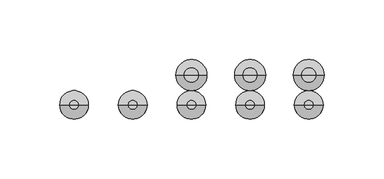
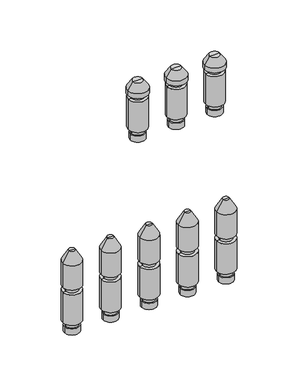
"""IFC4 building model written with IfcOpenShell, lengths in millimetres: valve geometry, PL AT_Manifold_FT-EV : 10 circuits."""

from ifc_helpers import new_model, si_unit, frame, origin, place, context, project, spatial, polyline, circle_curve, source, transform, mapped, element, save
from ifc_brep_helpers import plane_surface, cylinder_surface, revolved_surface, advanced_brep


def valve_bdae45cc(model_context):
    return source(origin(), model_context, "Body", "AdvancedBrep", [
        advanced_brep(
        [(425.3888889, 0.0, -35.11267), (444.3888889, 0.0, -35.11267), (434.8888889, 0.0, -35.11267), (425.3888889, 0.0, -27.0369646), (444.3888889, 0.0, -27.0369646), (426.8888889, 0.0, -27.0369646), (442.8888889, 0.0, -27.0369646), (426.8888889, 0.0, -20.330253), (442.8888889, 0.0, -20.330253), (422.8888889, 0.0, -20.330253), (446.8888889, 0.0, -20.330253), (422.8888889, 0.0, 20.330253), (446.8888889, 0.0, 20.330253), (426.8888889, 0.0, 20.330253), (442.8888889, 0.0, 20.330253), (426.8888889, 0.0, 27.0474786), (442.8888889, 0.0, 27.0474786), (422.8888889, 0.0, 27.0474786), (446.8888889, 0.0, 27.0474786), (422.8888889, 0.0, 59.4084325), (446.8888889, 0.0, 59.4084325), (430.8888889, 0.0, 73.264839), (438.8888889, 0.0, 73.264839), (434.8888889, 0.0, 73.264839)],
        [
            (0, 1, circle_curve(frame((434.8888889, 0.0, -35.11267), z_axis=(0.0, 0.0, -1.0), x_axis=(1.0, 0.0, 0.0)), 9.5)),
            (1, 2),
            (2, 0),
            (1, 0, circle_curve(frame((434.8888889, 0.0, -35.11267), z_axis=(0.0, 0.0, -1.0), x_axis=(1.0, 0.0, 0.0)), 9.5)),
            (3, 4, circle_curve(frame((434.8888889, 0.0, -27.0369646), z_axis=(0.0, 0.0, -1.0), x_axis=(1.0, 0.0, 0.0)), 9.5)),
            (4, 1),
            (0, 3),
            (4, 3, circle_curve(frame((434.8888889, 0.0, -27.0369646), z_axis=(0.0, 0.0, -1.0), x_axis=(1.0, 0.0, 0.0)), 9.5)),
            (5, 6, circle_curve(frame((434.8888889, 0.0, -27.0369646), z_axis=(0.0, 0.0, -1.0), x_axis=(1.0, 0.0, 0.0)), 8.0)),
            (6, 4),
            (3, 5),
            (6, 5, circle_curve(frame((434.8888889, 0.0, -27.0369646), z_axis=(0.0, 0.0, -1.0), x_axis=(1.0, 0.0, 0.0)), 8.0)),
            (7, 8, circle_curve(frame((434.8888889, 0.0, -20.330253), z_axis=(0.0, 0.0, -1.0), x_axis=(1.0, 0.0, 0.0)), 8.0)),
            (8, 6),
            (5, 7),
            (8, 7, circle_curve(frame((434.8888889, 0.0, -20.330253), z_axis=(0.0, 0.0, -1.0), x_axis=(1.0, 0.0, 0.0)), 8.0)),
            (9, 10, circle_curve(frame((434.8888889, 0.0, -20.330253), z_axis=(0.0, 0.0, -1.0), x_axis=(1.0, 0.0, 0.0)), 12.0)),
            (10, 8),
            (7, 9),
            (10, 9, circle_curve(frame((434.8888889, 0.0, -20.330253), z_axis=(0.0, 0.0, -1.0), x_axis=(1.0, 0.0, 0.0)), 12.0)),
            (11, 12, circle_curve(frame((434.8888889, 0.0, 20.330253), z_axis=(0.0, 0.0, -1.0), x_axis=(1.0, 0.0, 0.0)), 12.0)),
            (12, 10),
            (9, 11),
            (12, 11, circle_curve(frame((434.8888889, 0.0, 20.330253), z_axis=(0.0, 0.0, -1.0), x_axis=(1.0, 0.0, 0.0)), 12.0)),
            (13, 14, circle_curve(frame((434.8888889, 0.0, 20.330253), z_axis=(0.0, 0.0, -1.0), x_axis=(1.0, 0.0, 0.0)), 8.0)),
            (14, 12),
            (11, 13),
            (14, 13, circle_curve(frame((434.8888889, 0.0, 20.330253), z_axis=(0.0, 0.0, -1.0), x_axis=(1.0, 0.0, 0.0)), 8.0)),
            (15, 16, circle_curve(frame((434.8888889, 0.0, 27.0474786), z_axis=(0.0, 0.0, -1.0), x_axis=(1.0, 0.0, 0.0)), 8.0)),
            (16, 14),
            (13, 15),
            (16, 15, circle_curve(frame((434.8888889, 0.0, 27.0474786), z_axis=(0.0, 0.0, -1.0), x_axis=(1.0, 0.0, 0.0)), 8.0)),
            (17, 18, circle_curve(frame((434.8888889, 0.0, 27.0474786), z_axis=(0.0, 0.0, -1.0), x_axis=(1.0, 0.0, 0.0)), 12.0)),
            (18, 16),
            (15, 17),
            (18, 17, circle_curve(frame((434.8888889, 0.0, 27.0474786), z_axis=(0.0, 0.0, -1.0), x_axis=(1.0, 0.0, 0.0)), 12.0)),
            (19, 20, circle_curve(frame((434.8888889, 0.0, 59.4084325), z_axis=(0.0, 0.0, -1.0), x_axis=(1.0, 0.0, 0.0)), 12.0)),
            (20, 18),
            (17, 19),
            (20, 19, circle_curve(frame((434.8888889, 0.0, 59.4084325), z_axis=(0.0, 0.0, -1.0), x_axis=(1.0, 0.0, 0.0)), 12.0)),
            (21, 22, circle_curve(frame((434.8888889, 0.0, 73.264839), z_axis=(0.0, 0.0, -1.0), x_axis=(1.0, 0.0, 0.0)), 4.0)),
            (22, 20),
            (19, 21),
            (22, 21, circle_curve(frame((434.8888889, 0.0, 73.264839), z_axis=(0.0, 0.0, -1.0), x_axis=(1.0, 0.0, 0.0)), 4.0)),
            (23, 22),
            (21, 23),
        ],
        [
            plane_surface(frame((434.8888889, 0.0, -35.11267), z_axis=(0.0, 0.0, -1.0), x_axis=(1.0, 0.0, 0.0))),
            cylinder_surface(frame((434.8888889, 0.0, 58.264839), z_axis=(0.0, 0.0, 1.0), x_axis=(1.0, 0.0, 0.0)), 9.5),
            plane_surface(frame((434.8888889, 0.0, -27.0369646), z_axis=(0.0, 0.0, 1.0), x_axis=(1.0, 0.0, 0.0))),
            cylinder_surface(frame((434.8888889, 0.0, 58.264839), z_axis=(0.0, 0.0, 1.0), x_axis=(1.0, 0.0, 0.0)), 8.0),
            plane_surface(frame((434.8888889, 0.0, -20.330253), z_axis=(0.0, 0.0, -1.0), x_axis=(1.0, 0.0, 0.0))),
            cylinder_surface(frame((434.8888889, 0.0, 58.264839), z_axis=(0.0, 0.0, 1.0), x_axis=(1.0, 0.0, 0.0)), 12.0),
            plane_surface(frame((434.8888889, 0.0, 20.330253), z_axis=(0.0, 0.0, 1.0), x_axis=(1.0, 0.0, 0.0))),
            plane_surface(frame((434.8888889, 0.0, 27.0474786), z_axis=(0.0, 0.0, -1.0), x_axis=(1.0, 0.0, 0.0))),
            revolved_surface(polyline([(446.8888889, 0.0, 59.4084325), (438.8888889, 0.0, 73.264839)]), (434.8888889, 0.0, 58.264839), (0.0, 0.0, 1.0)),
            plane_surface(frame((434.8888889, 0.0, 73.264839), z_axis=(0.0, 0.0, 1.0), x_axis=(1.0, 0.0, 0.0))),
        ],
        [
            (0, [[1, 2, 3]]),
            (0, [[4, -3, -2]]),
            (1, [[5, 6, -1, 7]]),
            (1, [[8, -7, -4, -6]]),
            (2, [[9, 10, -5, 11]]),
            (2, [[12, -11, -8, -10]]),
            (3, [[13, 14, -9, 15]]),
            (3, [[16, -15, -12, -14]]),
            (4, [[17, 18, -13, 19]]),
            (4, [[20, -19, -16, -18]]),
            (5, [[21, 22, -17, 23]]),
            (5, [[24, -23, -20, -22]]),
            (6, [[25, 26, -21, 27]]),
            (6, [[28, -27, -24, -26]]),
            (3, [[29, 30, -25, 31]]),
            (3, [[32, -31, -28, -30]]),
            (7, [[33, 34, -29, 35]]),
            (7, [[36, -35, -32, -34]]),
            (5, [[37, 38, -33, 39]]),
            (5, [[40, -39, -36, -38]]),
            (8, [[41, 42, -37, 43]]),
            (8, [[44, -43, -40, -42]]),
            (9, [[45, -41, 46]]),
            (9, [[-46, -44, -45]]),
        ],
    ),
        advanced_brep(
        [(376.2777778, 0.0, -35.11267), (395.2777778, 0.0, -35.11267), (385.7777778, 0.0, -35.11267), (376.2777778, 0.0, -27.0369646), (395.2777778, 0.0, -27.0369646), (377.7777778, 0.0, -27.0369646), (393.7777778, 0.0, -27.0369646), (377.7777778, 0.0, -20.330253), (393.7777778, 0.0, -20.330253), (373.7777778, 0.0, -20.330253), (397.7777778, 0.0, -20.330253), (373.7777778, 0.0, 20.330253), (397.7777778, 0.0, 20.330253), (377.7777778, 0.0, 20.330253), (393.7777778, 0.0, 20.330253), (377.7777778, 0.0, 27.0474786), (393.7777778, 0.0, 27.0474786), (373.7777778, 0.0, 27.0474786), (397.7777778, 0.0, 27.0474786), (373.7777778, 0.0, 59.4084325), (397.7777778, 0.0, 59.4084325), (381.7777778, 0.0, 73.264839), (389.7777778, 0.0, 73.264839), (385.7777778, 0.0, 73.264839)],
        [
            (0, 1, circle_curve(frame((385.7777778, 0.0, -35.11267), z_axis=(0.0, 0.0, -1.0), x_axis=(1.0, 0.0, 0.0)), 9.5)),
            (1, 2),
            (2, 0),
            (1, 0, circle_curve(frame((385.7777778, 0.0, -35.11267), z_axis=(0.0, 0.0, -1.0), x_axis=(1.0, 0.0, 0.0)), 9.5)),
            (3, 4, circle_curve(frame((385.7777778, 0.0, -27.0369646), z_axis=(0.0, 0.0, -1.0), x_axis=(1.0, 0.0, 0.0)), 9.5)),
            (4, 1),
            (0, 3),
            (4, 3, circle_curve(frame((385.7777778, 0.0, -27.0369646), z_axis=(0.0, 0.0, -1.0), x_axis=(1.0, 0.0, 0.0)), 9.5)),
            (5, 6, circle_curve(frame((385.7777778, 0.0, -27.0369646), z_axis=(0.0, 0.0, -1.0), x_axis=(1.0, 0.0, 0.0)), 8.0)),
            (6, 4),
            (3, 5),
            (6, 5, circle_curve(frame((385.7777778, 0.0, -27.0369646), z_axis=(0.0, 0.0, -1.0), x_axis=(1.0, 0.0, 0.0)), 8.0)),
            (7, 8, circle_curve(frame((385.7777778, 0.0, -20.330253), z_axis=(0.0, 0.0, -1.0), x_axis=(1.0, 0.0, 0.0)), 8.0)),
            (8, 6),
            (5, 7),
            (8, 7, circle_curve(frame((385.7777778, 0.0, -20.330253), z_axis=(0.0, 0.0, -1.0), x_axis=(1.0, 0.0, 0.0)), 8.0)),
            (9, 10, circle_curve(frame((385.7777778, 0.0, -20.330253), z_axis=(0.0, 0.0, -1.0), x_axis=(1.0, 0.0, 0.0)), 12.0)),
            (10, 8),
            (7, 9),
            (10, 9, circle_curve(frame((385.7777778, 0.0, -20.330253), z_axis=(0.0, 0.0, -1.0), x_axis=(1.0, 0.0, 0.0)), 12.0)),
            (11, 12, circle_curve(frame((385.7777778, 0.0, 20.330253), z_axis=(0.0, 0.0, -1.0), x_axis=(1.0, 0.0, 0.0)), 12.0)),
            (12, 10),
            (9, 11),
            (12, 11, circle_curve(frame((385.7777778, 0.0, 20.330253), z_axis=(0.0, 0.0, -1.0), x_axis=(1.0, 0.0, 0.0)), 12.0)),
            (13, 14, circle_curve(frame((385.7777778, 0.0, 20.330253), z_axis=(0.0, 0.0, -1.0), x_axis=(1.0, 0.0, 0.0)), 8.0)),
            (14, 12),
            (11, 13),
            (14, 13, circle_curve(frame((385.7777778, 0.0, 20.330253), z_axis=(0.0, 0.0, -1.0), x_axis=(1.0, 0.0, 0.0)), 8.0)),
            (15, 16, circle_curve(frame((385.7777778, 0.0, 27.0474786), z_axis=(0.0, 0.0, -1.0), x_axis=(1.0, 0.0, 0.0)), 8.0)),
            (16, 14),
            (13, 15),
            (16, 15, circle_curve(frame((385.7777778, 0.0, 27.0474786), z_axis=(0.0, 0.0, -1.0), x_axis=(1.0, 0.0, 0.0)), 8.0)),
            (17, 18, circle_curve(frame((385.7777778, 0.0, 27.0474786), z_axis=(0.0, 0.0, -1.0), x_axis=(1.0, 0.0, 0.0)), 12.0)),
            (18, 16),
            (15, 17),
            (18, 17, circle_curve(frame((385.7777778, 0.0, 27.0474786), z_axis=(0.0, 0.0, -1.0), x_axis=(1.0, 0.0, 0.0)), 12.0)),
            (19, 20, circle_curve(frame((385.7777778, 0.0, 59.4084325), z_axis=(0.0, 0.0, -1.0), x_axis=(1.0, 0.0, 0.0)), 12.0)),
            (20, 18),
            (17, 19),
            (20, 19, circle_curve(frame((385.7777778, 0.0, 59.4084325), z_axis=(0.0, 0.0, -1.0), x_axis=(1.0, 0.0, 0.0)), 12.0)),
            (21, 22, circle_curve(frame((385.7777778, 0.0, 73.264839), z_axis=(0.0, 0.0, -1.0), x_axis=(1.0, 0.0, 0.0)), 4.0)),
            (22, 20),
            (19, 21),
            (22, 21, circle_curve(frame((385.7777778, 0.0, 73.264839), z_axis=(0.0, 0.0, -1.0), x_axis=(1.0, 0.0, 0.0)), 4.0)),
            (23, 22),
            (21, 23),
        ],
        [
            plane_surface(frame((385.7777778, 0.0, -35.11267), z_axis=(0.0, 0.0, -1.0), x_axis=(1.0, 0.0, 0.0))),
            cylinder_surface(frame((385.7777778, 0.0, 58.264839), z_axis=(0.0, 0.0, 1.0), x_axis=(1.0, 0.0, 0.0)), 9.5),
            plane_surface(frame((385.7777778, 0.0, -27.0369646), z_axis=(0.0, 0.0, 1.0), x_axis=(1.0, 0.0, 0.0))),
            cylinder_surface(frame((385.7777778, 0.0, 58.264839), z_axis=(0.0, 0.0, 1.0), x_axis=(1.0, 0.0, 0.0)), 8.0),
            plane_surface(frame((385.7777778, 0.0, -20.330253), z_axis=(0.0, 0.0, -1.0), x_axis=(1.0, 0.0, 0.0))),
            cylinder_surface(frame((385.7777778, 0.0, 58.264839), z_axis=(0.0, 0.0, 1.0), x_axis=(1.0, 0.0, 0.0)), 12.0),
            plane_surface(frame((385.7777778, 0.0, 20.330253), z_axis=(0.0, 0.0, 1.0), x_axis=(1.0, 0.0, 0.0))),
            plane_surface(frame((385.7777778, 0.0, 27.0474786), z_axis=(0.0, 0.0, -1.0), x_axis=(1.0, 0.0, 0.0))),
            revolved_surface(polyline([(397.7777778, 0.0, 59.4084325), (389.7777778, 0.0, 73.264839)]), (385.7777778, 0.0, 58.264839), (0.0, 0.0, 1.0)),
            plane_surface(frame((385.7777778, 0.0, 73.264839), z_axis=(0.0, 0.0, 1.0), x_axis=(1.0, 0.0, 0.0))),
        ],
        [
            (0, [[1, 2, 3]]),
            (0, [[4, -3, -2]]),
            (1, [[5, 6, -1, 7]]),
            (1, [[8, -7, -4, -6]]),
            (2, [[9, 10, -5, 11]]),
            (2, [[12, -11, -8, -10]]),
            (3, [[13, 14, -9, 15]]),
            (3, [[16, -15, -12, -14]]),
            (4, [[17, 18, -13, 19]]),
            (4, [[20, -19, -16, -18]]),
            (5, [[21, 22, -17, 23]]),
            (5, [[24, -23, -20, -22]]),
            (6, [[25, 26, -21, 27]]),
            (6, [[28, -27, -24, -26]]),
            (3, [[29, 30, -25, 31]]),
            (3, [[32, -31, -28, -30]]),
            (7, [[33, 34, -29, 35]]),
            (7, [[36, -35, -32, -34]]),
            (5, [[37, 38, -33, 39]]),
            (5, [[40, -39, -36, -38]]),
            (8, [[41, 42, -37, 43]]),
            (8, [[44, -43, -40, -42]]),
            (9, [[45, -41, 46]]),
            (9, [[-46, -44, -45]]),
        ],
    ),
        advanced_brep(
        [(425.3888889, 25.0, 174.88733), (444.3888889, 25.0, 174.88733), (434.8888889, 25.0, 174.88733), (425.3888889, 25.0, 182.9630354), (444.3888889, 25.0, 182.9630354), (426.8888889, 25.0, 182.9630354), (442.8888889, 25.0, 182.9630354), (426.8888889, 25.0, 189.669747), (442.8888889, 25.0, 189.669747), (422.8888889, 25.0, 189.669747), (446.8888889, 25.0, 189.669747), (422.8888889, 25.0, 230.330253), (446.8888889, 25.0, 230.330253), (426.8888889, 25.0, 230.330253), (442.8888889, 25.0, 230.330253), (426.8888889, 25.0, 236.0474786), (442.8888889, 25.0, 236.0474786), (421.8888889, 25.0, 236.0474786), (447.8888889, 25.0, 236.0474786), (421.8888889, 25.0, 242.337955), (447.8888889, 25.0, 242.337955), (428.5440668, 25.0, 251.842534), (441.233711, 25.0, 251.842534), (434.8888889, 25.0, 251.842534)],
        [
            (0, 1, circle_curve(frame((434.8888889, 25.0, 174.88733), z_axis=(0.0, 0.0, -1.0), x_axis=(1.0, 0.0, 0.0)), 9.5)),
            (1, 2),
            (2, 0),
            (1, 0, circle_curve(frame((434.8888889, 25.0, 174.88733), z_axis=(0.0, 0.0, -1.0), x_axis=(1.0, 0.0, 0.0)), 9.5)),
            (3, 4, circle_curve(frame((434.8888889, 25.0, 182.9630354), z_axis=(0.0, 0.0, -1.0), x_axis=(1.0, 0.0, 0.0)), 9.5)),
            (4, 1),
            (0, 3),
            (4, 3, circle_curve(frame((434.8888889, 25.0, 182.9630354), z_axis=(0.0, 0.0, -1.0), x_axis=(1.0, 0.0, 0.0)), 9.5)),
            (5, 6, circle_curve(frame((434.8888889, 25.0, 182.9630354), z_axis=(0.0, 0.0, -1.0), x_axis=(1.0, 0.0, 0.0)), 8.0)),
            (6, 4),
            (3, 5),
            (6, 5, circle_curve(frame((434.8888889, 25.0, 182.9630354), z_axis=(0.0, 0.0, -1.0), x_axis=(1.0, 0.0, 0.0)), 8.0)),
            (7, 8, circle_curve(frame((434.8888889, 25.0, 189.669747), z_axis=(0.0, 0.0, -1.0), x_axis=(1.0, 0.0, 0.0)), 8.0)),
            (8, 6),
            (5, 7),
            (8, 7, circle_curve(frame((434.8888889, 25.0, 189.669747), z_axis=(0.0, 0.0, -1.0), x_axis=(1.0, 0.0, 0.0)), 8.0)),
            (9, 10, circle_curve(frame((434.8888889, 25.0, 189.669747), z_axis=(0.0, 0.0, -1.0), x_axis=(1.0, 0.0, 0.0)), 12.0)),
            (10, 8),
            (7, 9),
            (10, 9, circle_curve(frame((434.8888889, 25.0, 189.669747), z_axis=(0.0, 0.0, -1.0), x_axis=(1.0, 0.0, 0.0)), 12.0)),
            (11, 12, circle_curve(frame((434.8888889, 25.0, 230.330253), z_axis=(0.0, 0.0, -1.0), x_axis=(1.0, 0.0, 0.0)), 12.0)),
            (12, 10),
            (9, 11),
            (12, 11, circle_curve(frame((434.8888889, 25.0, 230.330253), z_axis=(0.0, 0.0, -1.0), x_axis=(1.0, 0.0, 0.0)), 12.0)),
            (13, 14, circle_curve(frame((434.8888889, 25.0, 230.330253), z_axis=(0.0, 0.0, -1.0), x_axis=(1.0, 0.0, 0.0)), 8.0)),
            (14, 12),
            (11, 13),
            (14, 13, circle_curve(frame((434.8888889, 25.0, 230.330253), z_axis=(0.0, 0.0, -1.0), x_axis=(1.0, 0.0, 0.0)), 8.0)),
            (15, 16, circle_curve(frame((434.8888889, 25.0, 236.0474786), z_axis=(0.0, 0.0, -1.0), x_axis=(1.0, 0.0, 0.0)), 8.0)),
            (16, 14),
            (13, 15),
            (16, 15, circle_curve(frame((434.8888889, 25.0, 236.0474786), z_axis=(0.0, 0.0, -1.0), x_axis=(1.0, 0.0, 0.0)), 8.0)),
            (17, 18, circle_curve(frame((434.8888889, 25.0, 236.0474786), z_axis=(0.0, 0.0, -1.0), x_axis=(1.0, 0.0, 0.0)), 13.0)),
            (18, 16),
            (15, 17),
            (18, 17, circle_curve(frame((434.8888889, 25.0, 236.0474786), z_axis=(0.0, 0.0, -1.0), x_axis=(1.0, 0.0, 0.0)), 13.0)),
            (19, 20, circle_curve(frame((434.8888889, 25.0, 242.337955), z_axis=(0.0, 0.0, -1.0), x_axis=(1.0, 0.0, 0.0)), 13.0)),
            (20, 18),
            (17, 19),
            (20, 19, circle_curve(frame((434.8888889, 25.0, 242.337955), z_axis=(0.0, 0.0, -1.0), x_axis=(1.0, 0.0, 0.0)), 13.0)),
            (21, 22, circle_curve(frame((434.8888889, 25.0, 251.842534), z_axis=(0.0, 0.0, -1.0), x_axis=(1.0, 0.0, 0.0)), 6.3448221)),
            (22, 20),
            (19, 21),
            (22, 21, circle_curve(frame((434.8888889, 25.0, 251.842534), z_axis=(0.0, 0.0, -1.0), x_axis=(1.0, 0.0, 0.0)), 6.3448221)),
            (23, 22),
            (21, 23),
        ],
        [
            plane_surface(frame((434.8888889, 25.0, 174.88733), z_axis=(0.0, 0.0, -1.0), x_axis=(1.0, 0.0, 0.0))),
            cylinder_surface(frame((434.8888889, 25.0, 247.7026565), z_axis=(0.0, 0.0, 1.0), x_axis=(1.0, 0.0, 0.0)), 9.5),
            plane_surface(frame((434.8888889, 25.0, 182.9630354), z_axis=(0.0, 0.0, 1.0), x_axis=(1.0, 0.0, 0.0))),
            cylinder_surface(frame((434.8888889, 25.0, 247.7026565), z_axis=(0.0, 0.0, 1.0), x_axis=(1.0, 0.0, 0.0)), 8.0),
            plane_surface(frame((434.8888889, 25.0, 189.669747), z_axis=(0.0, 0.0, -1.0), x_axis=(1.0, 0.0, 0.0))),
            cylinder_surface(frame((434.8888889, 25.0, 247.7026565), z_axis=(0.0, 0.0, 1.0), x_axis=(1.0, 0.0, 0.0)), 12.0),
            plane_surface(frame((434.8888889, 25.0, 230.330253), z_axis=(0.0, 0.0, 1.0), x_axis=(1.0, 0.0, 0.0))),
            plane_surface(frame((434.8888889, 25.0, 236.0474786), z_axis=(0.0, 0.0, -1.0), x_axis=(1.0, 0.0, 0.0))),
            cylinder_surface(frame((434.8888889, 25.0, 247.7026565), z_axis=(0.0, 0.0, 1.0), x_axis=(1.0, 0.0, 0.0)), 13.0),
            revolved_surface(polyline([(447.8888889, 25.0, 242.337955), (441.233711, 25.0, 251.842534)]), (434.8888889, 25.0, 247.7026565), (0.0, 0.0, 1.0)),
            plane_surface(frame((434.8888889, 25.0, 251.842534), z_axis=(0.0, 0.0, 1.0), x_axis=(1.0, 0.0, 0.0))),
        ],
        [
            (0, [[1, 2, 3]]),
            (0, [[4, -3, -2]]),
            (1, [[5, 6, -1, 7]]),
            (1, [[8, -7, -4, -6]]),
            (2, [[9, 10, -5, 11]]),
            (2, [[12, -11, -8, -10]]),
            (3, [[13, 14, -9, 15]]),
            (3, [[16, -15, -12, -14]]),
            (4, [[17, 18, -13, 19]]),
            (4, [[20, -19, -16, -18]]),
            (5, [[21, 22, -17, 23]]),
            (5, [[24, -23, -20, -22]]),
            (6, [[25, 26, -21, 27]]),
            (6, [[28, -27, -24, -26]]),
            (3, [[29, 30, -25, 31]]),
            (3, [[32, -31, -28, -30]]),
            (7, [[33, 34, -29, 35]]),
            (7, [[36, -35, -32, -34]]),
            (8, [[37, 38, -33, 39]]),
            (8, [[40, -39, -36, -38]]),
            (9, [[41, 42, -37, 43]]),
            (9, [[44, -43, -40, -42]]),
            (10, [[45, -41, 46]]),
            (10, [[-46, -44, -45]]),
        ],
    ),
        advanced_brep(
        [(376.2777778, 25.0, 174.88733), (395.2777778, 25.0, 174.88733), (385.7777778, 25.0, 174.88733), (376.2777778, 25.0, 182.9630354), (395.2777778, 25.0, 182.9630354), (377.7777778, 25.0, 182.9630354), (393.7777778, 25.0, 182.9630354), (377.7777778, 25.0, 189.669747), (393.7777778, 25.0, 189.669747), (373.7777778, 25.0, 189.669747), (397.7777778, 25.0, 189.669747), (373.7777778, 25.0, 230.330253), (397.7777778, 25.0, 230.330253), (377.7777778, 25.0, 230.330253), (393.7777778, 25.0, 230.330253), (377.7777778, 25.0, 236.0474786), (393.7777778, 25.0, 236.0474786), (372.7777778, 25.0, 236.0474786), (398.7777778, 25.0, 236.0474786), (372.7777778, 25.0, 242.337955), (398.7777778, 25.0, 242.337955), (379.4329557, 25.0, 251.842534), (392.1225999, 25.0, 251.842534), (385.7777778, 25.0, 251.842534)],
        [
            (0, 1, circle_curve(frame((385.7777778, 25.0, 174.88733), z_axis=(0.0, 0.0, -1.0), x_axis=(1.0, 0.0, 0.0)), 9.5)),
            (1, 2),
            (2, 0),
            (1, 0, circle_curve(frame((385.7777778, 25.0, 174.88733), z_axis=(0.0, 0.0, -1.0), x_axis=(1.0, 0.0, 0.0)), 9.5)),
            (3, 4, circle_curve(frame((385.7777778, 25.0, 182.9630354), z_axis=(0.0, 0.0, -1.0), x_axis=(1.0, 0.0, 0.0)), 9.5)),
            (4, 1),
            (0, 3),
            (4, 3, circle_curve(frame((385.7777778, 25.0, 182.9630354), z_axis=(0.0, 0.0, -1.0), x_axis=(1.0, 0.0, 0.0)), 9.5)),
            (5, 6, circle_curve(frame((385.7777778, 25.0, 182.9630354), z_axis=(0.0, 0.0, -1.0), x_axis=(1.0, 0.0, 0.0)), 8.0)),
            (6, 4),
            (3, 5),
            (6, 5, circle_curve(frame((385.7777778, 25.0, 182.9630354), z_axis=(0.0, 0.0, -1.0), x_axis=(1.0, 0.0, 0.0)), 8.0)),
            (7, 8, circle_curve(frame((385.7777778, 25.0, 189.669747), z_axis=(0.0, 0.0, -1.0), x_axis=(1.0, 0.0, 0.0)), 8.0)),
            (8, 6),
            (5, 7),
            (8, 7, circle_curve(frame((385.7777778, 25.0, 189.669747), z_axis=(0.0, 0.0, -1.0), x_axis=(1.0, 0.0, 0.0)), 8.0)),
            (9, 10, circle_curve(frame((385.7777778, 25.0, 189.669747), z_axis=(0.0, 0.0, -1.0), x_axis=(1.0, 0.0, 0.0)), 12.0)),
            (10, 8),
            (7, 9),
            (10, 9, circle_curve(frame((385.7777778, 25.0, 189.669747), z_axis=(0.0, 0.0, -1.0), x_axis=(1.0, 0.0, 0.0)), 12.0)),
            (11, 12, circle_curve(frame((385.7777778, 25.0, 230.330253), z_axis=(0.0, 0.0, -1.0), x_axis=(1.0, 0.0, 0.0)), 12.0)),
            (12, 10),
            (9, 11),
            (12, 11, circle_curve(frame((385.7777778, 25.0, 230.330253), z_axis=(0.0, 0.0, -1.0), x_axis=(1.0, 0.0, 0.0)), 12.0)),
            (13, 14, circle_curve(frame((385.7777778, 25.0, 230.330253), z_axis=(0.0, 0.0, -1.0), x_axis=(1.0, 0.0, 0.0)), 8.0)),
            (14, 12),
            (11, 13),
            (14, 13, circle_curve(frame((385.7777778, 25.0, 230.330253), z_axis=(0.0, 0.0, -1.0), x_axis=(1.0, 0.0, 0.0)), 8.0)),
            (15, 16, circle_curve(frame((385.7777778, 25.0, 236.0474786), z_axis=(0.0, 0.0, -1.0), x_axis=(1.0, 0.0, 0.0)), 8.0)),
            (16, 14),
            (13, 15),
            (16, 15, circle_curve(frame((385.7777778, 25.0, 236.0474786), z_axis=(0.0, 0.0, -1.0), x_axis=(1.0, 0.0, 0.0)), 8.0)),
            (17, 18, circle_curve(frame((385.7777778, 25.0, 236.0474786), z_axis=(0.0, 0.0, -1.0), x_axis=(1.0, 0.0, 0.0)), 13.0)),
            (18, 16),
            (15, 17),
            (18, 17, circle_curve(frame((385.7777778, 25.0, 236.0474786), z_axis=(0.0, 0.0, -1.0), x_axis=(1.0, 0.0, 0.0)), 13.0)),
            (19, 20, circle_curve(frame((385.7777778, 25.0, 242.337955), z_axis=(0.0, 0.0, -1.0), x_axis=(1.0, 0.0, 0.0)), 13.0)),
            (20, 18),
            (17, 19),
            (20, 19, circle_curve(frame((385.7777778, 25.0, 242.337955), z_axis=(0.0, 0.0, -1.0), x_axis=(1.0, 0.0, 0.0)), 13.0)),
            (21, 22, circle_curve(frame((385.7777778, 25.0, 251.842534), z_axis=(0.0, 0.0, -1.0), x_axis=(1.0, 0.0, 0.0)), 6.3448221)),
            (22, 20),
            (19, 21),
            (22, 21, circle_curve(frame((385.7777778, 25.0, 251.842534), z_axis=(0.0, 0.0, -1.0), x_axis=(1.0, 0.0, 0.0)), 6.3448221)),
            (23, 22),
            (21, 23),
        ],
        [
            plane_surface(frame((385.7777778, 25.0, 174.88733), z_axis=(0.0, 0.0, -1.0), x_axis=(1.0, 0.0, 0.0))),
            cylinder_surface(frame((385.7777778, 25.0, 247.7026565), z_axis=(0.0, 0.0, 1.0), x_axis=(1.0, 0.0, 0.0)), 9.5),
            plane_surface(frame((385.7777778, 25.0, 182.9630354), z_axis=(0.0, 0.0, 1.0), x_axis=(1.0, 0.0, 0.0))),
            cylinder_surface(frame((385.7777778, 25.0, 247.7026565), z_axis=(0.0, 0.0, 1.0), x_axis=(1.0, 0.0, 0.0)), 8.0),
            plane_surface(frame((385.7777778, 25.0, 189.669747), z_axis=(0.0, 0.0, -1.0), x_axis=(1.0, 0.0, 0.0))),
            cylinder_surface(frame((385.7777778, 25.0, 247.7026565), z_axis=(0.0, 0.0, 1.0), x_axis=(1.0, 0.0, 0.0)), 12.0),
            plane_surface(frame((385.7777778, 25.0, 230.330253), z_axis=(0.0, 0.0, 1.0), x_axis=(1.0, 0.0, 0.0))),
            plane_surface(frame((385.7777778, 25.0, 236.0474786), z_axis=(0.0, 0.0, -1.0), x_axis=(1.0, 0.0, 0.0))),
            cylinder_surface(frame((385.7777778, 25.0, 247.7026565), z_axis=(0.0, 0.0, 1.0), x_axis=(1.0, 0.0, 0.0)), 13.0),
            revolved_surface(polyline([(398.7777778, 25.0, 242.337955), (392.1225999, 25.0, 251.842534)]), (385.7777778, 25.0, 247.7026565), (0.0, 0.0, 1.0)),
            plane_surface(frame((385.7777778, 25.0, 251.842534), z_axis=(0.0, 0.0, 1.0), x_axis=(1.0, 0.0, 0.0))),
        ],
        [
            (0, [[1, 2, 3]]),
            (0, [[4, -3, -2]]),
            (1, [[5, 6, -1, 7]]),
            (1, [[8, -7, -4, -6]]),
            (2, [[9, 10, -5, 11]]),
            (2, [[12, -11, -8, -10]]),
            (3, [[13, 14, -9, 15]]),
            (3, [[16, -15, -12, -14]]),
            (4, [[17, 18, -13, 19]]),
            (4, [[20, -19, -16, -18]]),
            (5, [[21, 22, -17, 23]]),
            (5, [[24, -23, -20, -22]]),
            (6, [[25, 26, -21, 27]]),
            (6, [[28, -27, -24, -26]]),
            (3, [[29, 30, -25, 31]]),
            (3, [[32, -31, -28, -30]]),
            (7, [[33, 34, -29, 35]]),
            (7, [[36, -35, -32, -34]]),
            (8, [[37, 38, -33, 39]]),
            (8, [[40, -39, -36, -38]]),
            (9, [[41, 42, -37, 43]]),
            (9, [[44, -43, -40, -42]]),
            (10, [[45, -41, 46]]),
            (10, [[-46, -44, -45]]),
        ],
    ),
        advanced_brep(
        [(327.1666667, 0.0, -35.11267), (346.1666667, 0.0, -35.11267), (336.6666667, 0.0, -35.11267), (327.1666667, 0.0, -27.0369646), (346.1666667, 0.0, -27.0369646), (328.6666667, 0.0, -27.0369646), (344.6666667, 0.0, -27.0369646), (328.6666667, 0.0, -20.330253), (344.6666667, 0.0, -20.330253), (324.6666667, 0.0, -20.330253), (348.6666667, 0.0, -20.330253), (324.6666667, 0.0, 20.330253), (348.6666667, 0.0, 20.330253), (328.6666667, 0.0, 20.330253), (344.6666667, 0.0, 20.330253), (328.6666667, 0.0, 27.0474786), (344.6666667, 0.0, 27.0474786), (324.6666667, 0.0, 27.0474786), (348.6666667, 0.0, 27.0474786), (324.6666667, 0.0, 59.4084325), (348.6666667, 0.0, 59.4084325), (332.6666667, 0.0, 73.264839), (340.6666667, 0.0, 73.264839), (336.6666667, 0.0, 73.264839)],
        [
            (0, 1, circle_curve(frame((336.6666667, 0.0, -35.11267), z_axis=(0.0, 0.0, -1.0), x_axis=(1.0, 0.0, 0.0)), 9.5)),
            (1, 2),
            (2, 0),
            (1, 0, circle_curve(frame((336.6666667, 0.0, -35.11267), z_axis=(0.0, 0.0, -1.0), x_axis=(1.0, 0.0, 0.0)), 9.5)),
            (3, 4, circle_curve(frame((336.6666667, 0.0, -27.0369646), z_axis=(0.0, 0.0, -1.0), x_axis=(1.0, 0.0, 0.0)), 9.5)),
            (4, 1),
            (0, 3),
            (4, 3, circle_curve(frame((336.6666667, 0.0, -27.0369646), z_axis=(0.0, 0.0, -1.0), x_axis=(1.0, 0.0, 0.0)), 9.5)),
            (5, 6, circle_curve(frame((336.6666667, 0.0, -27.0369646), z_axis=(0.0, 0.0, -1.0), x_axis=(1.0, 0.0, 0.0)), 8.0)),
            (6, 4),
            (3, 5),
            (6, 5, circle_curve(frame((336.6666667, 0.0, -27.0369646), z_axis=(0.0, 0.0, -1.0), x_axis=(1.0, 0.0, 0.0)), 8.0)),
            (7, 8, circle_curve(frame((336.6666667, 0.0, -20.330253), z_axis=(0.0, 0.0, -1.0), x_axis=(1.0, 0.0, 0.0)), 8.0)),
            (8, 6),
            (5, 7),
            (8, 7, circle_curve(frame((336.6666667, 0.0, -20.330253), z_axis=(0.0, 0.0, -1.0), x_axis=(1.0, 0.0, 0.0)), 8.0)),
            (9, 10, circle_curve(frame((336.6666667, 0.0, -20.330253), z_axis=(0.0, 0.0, -1.0), x_axis=(1.0, 0.0, 0.0)), 12.0)),
            (10, 8),
            (7, 9),
            (10, 9, circle_curve(frame((336.6666667, 0.0, -20.330253), z_axis=(0.0, 0.0, -1.0), x_axis=(1.0, 0.0, 0.0)), 12.0)),
            (11, 12, circle_curve(frame((336.6666667, 0.0, 20.330253), z_axis=(0.0, 0.0, -1.0), x_axis=(1.0, 0.0, 0.0)), 12.0)),
            (12, 10),
            (9, 11),
            (12, 11, circle_curve(frame((336.6666667, 0.0, 20.330253), z_axis=(0.0, 0.0, -1.0), x_axis=(1.0, 0.0, 0.0)), 12.0)),
            (13, 14, circle_curve(frame((336.6666667, 0.0, 20.330253), z_axis=(0.0, 0.0, -1.0), x_axis=(1.0, 0.0, 0.0)), 8.0)),
            (14, 12),
            (11, 13),
            (14, 13, circle_curve(frame((336.6666667, 0.0, 20.330253), z_axis=(0.0, 0.0, -1.0), x_axis=(1.0, 0.0, 0.0)), 8.0)),
            (15, 16, circle_curve(frame((336.6666667, 0.0, 27.0474786), z_axis=(0.0, 0.0, -1.0), x_axis=(1.0, 0.0, 0.0)), 8.0)),
            (16, 14),
            (13, 15),
            (16, 15, circle_curve(frame((336.6666667, 0.0, 27.0474786), z_axis=(0.0, 0.0, -1.0), x_axis=(1.0, 0.0, 0.0)), 8.0)),
            (17, 18, circle_curve(frame((336.6666667, 0.0, 27.0474786), z_axis=(0.0, 0.0, -1.0), x_axis=(1.0, 0.0, 0.0)), 12.0)),
            (18, 16),
            (15, 17),
            (18, 17, circle_curve(frame((336.6666667, 0.0, 27.0474786), z_axis=(0.0, 0.0, -1.0), x_axis=(1.0, 0.0, 0.0)), 12.0)),
            (19, 20, circle_curve(frame((336.6666667, 0.0, 59.4084325), z_axis=(0.0, 0.0, -1.0), x_axis=(1.0, 0.0, 0.0)), 12.0)),
            (20, 18),
            (17, 19),
            (20, 19, circle_curve(frame((336.6666667, 0.0, 59.4084325), z_axis=(0.0, 0.0, -1.0), x_axis=(1.0, 0.0, 0.0)), 12.0)),
            (21, 22, circle_curve(frame((336.6666667, 0.0, 73.264839), z_axis=(0.0, 0.0, -1.0), x_axis=(1.0, 0.0, 0.0)), 4.0)),
            (22, 20),
            (19, 21),
            (22, 21, circle_curve(frame((336.6666667, 0.0, 73.264839), z_axis=(0.0, 0.0, -1.0), x_axis=(1.0, 0.0, 0.0)), 4.0)),
            (23, 22),
            (21, 23),
        ],
        [
            plane_surface(frame((336.6666667, 0.0, -35.11267), z_axis=(0.0, 0.0, -1.0), x_axis=(1.0, 0.0, 0.0))),
            cylinder_surface(frame((336.6666667, 0.0, 58.264839), z_axis=(0.0, 0.0, 1.0), x_axis=(1.0, 0.0, 0.0)), 9.5),
            plane_surface(frame((336.6666667, 0.0, -27.0369646), z_axis=(0.0, 0.0, 1.0), x_axis=(1.0, 0.0, 0.0))),
            cylinder_surface(frame((336.6666667, 0.0, 58.264839), z_axis=(0.0, 0.0, 1.0), x_axis=(1.0, 0.0, 0.0)), 8.0),
            plane_surface(frame((336.6666667, 0.0, -20.330253), z_axis=(0.0, 0.0, -1.0), x_axis=(1.0, 0.0, 0.0))),
            cylinder_surface(frame((336.6666667, 0.0, 58.264839), z_axis=(0.0, 0.0, 1.0), x_axis=(1.0, 0.0, 0.0)), 12.0),
            plane_surface(frame((336.6666667, 0.0, 20.330253), z_axis=(0.0, 0.0, 1.0), x_axis=(1.0, 0.0, 0.0))),
            plane_surface(frame((336.6666667, 0.0, 27.0474786), z_axis=(0.0, 0.0, -1.0), x_axis=(1.0, 0.0, 0.0))),
            revolved_surface(polyline([(348.6666667, 0.0, 59.4084325), (340.6666667, 0.0, 73.264839)]), (336.6666667, 0.0, 58.264839), (0.0, 0.0, 1.0)),
            plane_surface(frame((336.6666667, 0.0, 73.264839), z_axis=(0.0, 0.0, 1.0), x_axis=(1.0, 0.0, 0.0))),
        ],
        [
            (0, [[1, 2, 3]]),
            (0, [[4, -3, -2]]),
            (1, [[5, 6, -1, 7]]),
            (1, [[8, -7, -4, -6]]),
            (2, [[9, 10, -5, 11]]),
            (2, [[12, -11, -8, -10]]),
            (3, [[13, 14, -9, 15]]),
            (3, [[16, -15, -12, -14]]),
            (4, [[17, 18, -13, 19]]),
            (4, [[20, -19, -16, -18]]),
            (5, [[21, 22, -17, 23]]),
            (5, [[24, -23, -20, -22]]),
            (6, [[25, 26, -21, 27]]),
            (6, [[28, -27, -24, -26]]),
            (3, [[29, 30, -25, 31]]),
            (3, [[32, -31, -28, -30]]),
            (7, [[33, 34, -29, 35]]),
            (7, [[36, -35, -32, -34]]),
            (5, [[37, 38, -33, 39]]),
            (5, [[40, -39, -36, -38]]),
            (8, [[41, 42, -37, 43]]),
            (8, [[44, -43, -40, -42]]),
            (9, [[45, -41, 46]]),
            (9, [[-46, -44, -45]]),
        ],
    ),
        advanced_brep(
        [(327.1666667, 25.0, 174.88733), (346.1666667, 25.0, 174.88733), (336.6666667, 25.0, 174.88733), (327.1666667, 25.0, 182.9630354), (346.1666667, 25.0, 182.9630354), (328.6666667, 25.0, 182.9630354), (344.6666667, 25.0, 182.9630354), (328.6666667, 25.0, 189.669747), (344.6666667, 25.0, 189.669747), (324.6666667, 25.0, 189.669747), (348.6666667, 25.0, 189.669747), (324.6666667, 25.0, 230.330253), (348.6666667, 25.0, 230.330253), (328.6666667, 25.0, 230.330253), (344.6666667, 25.0, 230.330253), (328.6666667, 25.0, 236.0474786), (344.6666667, 25.0, 236.0474786), (323.6666667, 25.0, 236.0474786), (349.6666667, 25.0, 236.0474786), (323.6666667, 25.0, 242.337955), (349.6666667, 25.0, 242.337955), (330.3218445, 25.0, 251.842534), (343.0114888, 25.0, 251.842534), (336.6666667, 25.0, 251.842534)],
        [
            (0, 1, circle_curve(frame((336.6666667, 25.0, 174.88733), z_axis=(0.0, 0.0, -1.0), x_axis=(1.0, 0.0, 0.0)), 9.5)),
            (1, 2),
            (2, 0),
            (1, 0, circle_curve(frame((336.6666667, 25.0, 174.88733), z_axis=(0.0, 0.0, -1.0), x_axis=(1.0, 0.0, 0.0)), 9.5)),
            (3, 4, circle_curve(frame((336.6666667, 25.0, 182.9630354), z_axis=(0.0, 0.0, -1.0), x_axis=(1.0, 0.0, 0.0)), 9.5)),
            (4, 1),
            (0, 3),
            (4, 3, circle_curve(frame((336.6666667, 25.0, 182.9630354), z_axis=(0.0, 0.0, -1.0), x_axis=(1.0, 0.0, 0.0)), 9.5)),
            (5, 6, circle_curve(frame((336.6666667, 25.0, 182.9630354), z_axis=(0.0, 0.0, -1.0), x_axis=(1.0, 0.0, 0.0)), 8.0)),
            (6, 4),
            (3, 5),
            (6, 5, circle_curve(frame((336.6666667, 25.0, 182.9630354), z_axis=(0.0, 0.0, -1.0), x_axis=(1.0, 0.0, 0.0)), 8.0)),
            (7, 8, circle_curve(frame((336.6666667, 25.0, 189.669747), z_axis=(0.0, 0.0, -1.0), x_axis=(1.0, 0.0, 0.0)), 8.0)),
            (8, 6),
            (5, 7),
            (8, 7, circle_curve(frame((336.6666667, 25.0, 189.669747), z_axis=(0.0, 0.0, -1.0), x_axis=(1.0, 0.0, 0.0)), 8.0)),
            (9, 10, circle_curve(frame((336.6666667, 25.0, 189.669747), z_axis=(0.0, 0.0, -1.0), x_axis=(1.0, 0.0, 0.0)), 12.0)),
            (10, 8),
            (7, 9),
            (10, 9, circle_curve(frame((336.6666667, 25.0, 189.669747), z_axis=(0.0, 0.0, -1.0), x_axis=(1.0, 0.0, 0.0)), 12.0)),
            (11, 12, circle_curve(frame((336.6666667, 25.0, 230.330253), z_axis=(0.0, 0.0, -1.0), x_axis=(1.0, 0.0, 0.0)), 12.0)),
            (12, 10),
            (9, 11),
            (12, 11, circle_curve(frame((336.6666667, 25.0, 230.330253), z_axis=(0.0, 0.0, -1.0), x_axis=(1.0, 0.0, 0.0)), 12.0)),
            (13, 14, circle_curve(frame((336.6666667, 25.0, 230.330253), z_axis=(0.0, 0.0, -1.0), x_axis=(1.0, 0.0, 0.0)), 8.0)),
            (14, 12),
            (11, 13),
            (14, 13, circle_curve(frame((336.6666667, 25.0, 230.330253), z_axis=(0.0, 0.0, -1.0), x_axis=(1.0, 0.0, 0.0)), 8.0)),
            (15, 16, circle_curve(frame((336.6666667, 25.0, 236.0474786), z_axis=(0.0, 0.0, -1.0), x_axis=(1.0, 0.0, 0.0)), 8.0)),
            (16, 14),
            (13, 15),
            (16, 15, circle_curve(frame((336.6666667, 25.0, 236.0474786), z_axis=(0.0, 0.0, -1.0), x_axis=(1.0, 0.0, 0.0)), 8.0)),
            (17, 18, circle_curve(frame((336.6666667, 25.0, 236.0474786), z_axis=(0.0, 0.0, -1.0), x_axis=(1.0, 0.0, 0.0)), 13.0)),
            (18, 16),
            (15, 17),
            (18, 17, circle_curve(frame((336.6666667, 25.0, 236.0474786), z_axis=(0.0, 0.0, -1.0), x_axis=(1.0, 0.0, 0.0)), 13.0)),
            (19, 20, circle_curve(frame((336.6666667, 25.0, 242.337955), z_axis=(0.0, 0.0, -1.0), x_axis=(1.0, 0.0, 0.0)), 13.0)),
            (20, 18),
            (17, 19),
            (20, 19, circle_curve(frame((336.6666667, 25.0, 242.337955), z_axis=(0.0, 0.0, -1.0), x_axis=(1.0, 0.0, 0.0)), 13.0)),
            (21, 22, circle_curve(frame((336.6666667, 25.0, 251.842534), z_axis=(0.0, 0.0, -1.0), x_axis=(1.0, 0.0, 0.0)), 6.3448221)),
            (22, 20),
            (19, 21),
            (22, 21, circle_curve(frame((336.6666667, 25.0, 251.842534), z_axis=(0.0, 0.0, -1.0), x_axis=(1.0, 0.0, 0.0)), 6.3448221)),
            (23, 22),
            (21, 23),
        ],
        [
            plane_surface(frame((336.6666667, 25.0, 174.88733), z_axis=(0.0, 0.0, -1.0), x_axis=(1.0, 0.0, 0.0))),
            cylinder_surface(frame((336.6666667, 25.0, 247.7026565), z_axis=(0.0, 0.0, 1.0), x_axis=(1.0, 0.0, 0.0)), 9.5),
            plane_surface(frame((336.6666667, 25.0, 182.9630354), z_axis=(0.0, 0.0, 1.0), x_axis=(1.0, 0.0, 0.0))),
            cylinder_surface(frame((336.6666667, 25.0, 247.7026565), z_axis=(0.0, 0.0, 1.0), x_axis=(1.0, 0.0, 0.0)), 8.0),
            plane_surface(frame((336.6666667, 25.0, 189.669747), z_axis=(0.0, 0.0, -1.0), x_axis=(1.0, 0.0, 0.0))),
            cylinder_surface(frame((336.6666667, 25.0, 247.7026565), z_axis=(0.0, 0.0, 1.0), x_axis=(1.0, 0.0, 0.0)), 12.0),
            plane_surface(frame((336.6666667, 25.0, 230.330253), z_axis=(0.0, 0.0, 1.0), x_axis=(1.0, 0.0, 0.0))),
            plane_surface(frame((336.6666667, 25.0, 236.0474786), z_axis=(0.0, 0.0, -1.0), x_axis=(1.0, 0.0, 0.0))),
            cylinder_surface(frame((336.6666667, 25.0, 247.7026565), z_axis=(0.0, 0.0, 1.0), x_axis=(1.0, 0.0, 0.0)), 13.0),
            revolved_surface(polyline([(349.6666667, 25.0, 242.337955), (343.0114888, 25.0, 251.842534)]), (336.6666667, 25.0, 247.7026565), (0.0, 0.0, 1.0)),
            plane_surface(frame((336.6666667, 25.0, 251.842534), z_axis=(0.0, 0.0, 1.0), x_axis=(1.0, 0.0, 0.0))),
        ],
        [
            (0, [[1, 2, 3]]),
            (0, [[4, -3, -2]]),
            (1, [[5, 6, -1, 7]]),
            (1, [[8, -7, -4, -6]]),
            (2, [[9, 10, -5, 11]]),
            (2, [[12, -11, -8, -10]]),
            (3, [[13, 14, -9, 15]]),
            (3, [[16, -15, -12, -14]]),
            (4, [[17, 18, -13, 19]]),
            (4, [[20, -19, -16, -18]]),
            (5, [[21, 22, -17, 23]]),
            (5, [[24, -23, -20, -22]]),
            (6, [[25, 26, -21, 27]]),
            (6, [[28, -27, -24, -26]]),
            (3, [[29, 30, -25, 31]]),
            (3, [[32, -31, -28, -30]]),
            (7, [[33, 34, -29, 35]]),
            (7, [[36, -35, -32, -34]]),
            (8, [[37, 38, -33, 39]]),
            (8, [[40, -39, -36, -38]]),
            (9, [[41, 42, -37, 43]]),
            (9, [[44, -43, -40, -42]]),
            (10, [[45, -41, 46]]),
            (10, [[-46, -44, -45]]),
        ],
    ),
        advanced_brep(
        [(278.0555556, 0.0, -35.11267), (297.0555556, 0.0, -35.11267), (287.5555556, 0.0, -35.11267), (278.0555556, 0.0, -27.0369646), (297.0555556, 0.0, -27.0369646), (279.5555556, 0.0, -27.0369646), (295.5555556, 0.0, -27.0369646), (279.5555556, 0.0, -20.330253), (295.5555556, 0.0, -20.330253), (275.5555556, 0.0, -20.330253), (299.5555556, 0.0, -20.330253), (275.5555556, 0.0, 20.330253), (299.5555556, 0.0, 20.330253), (279.5555556, 0.0, 20.330253), (295.5555556, 0.0, 20.330253), (279.5555556, 0.0, 27.0474786), (295.5555556, 0.0, 27.0474786), (275.5555556, 0.0, 27.0474786), (299.5555556, 0.0, 27.0474786), (275.5555556, 0.0, 59.4084325), (299.5555556, 0.0, 59.4084325), (283.5555556, 0.0, 73.264839), (291.5555556, 0.0, 73.264839), (287.5555556, 0.0, 73.264839)],
        [
            (0, 1, circle_curve(frame((287.5555556, 0.0, -35.11267), z_axis=(0.0, 0.0, -1.0), x_axis=(1.0, 0.0, 0.0)), 9.5)),
            (1, 2),
            (2, 0),
            (1, 0, circle_curve(frame((287.5555556, 0.0, -35.11267), z_axis=(0.0, 0.0, -1.0), x_axis=(1.0, 0.0, 0.0)), 9.5)),
            (3, 4, circle_curve(frame((287.5555556, 0.0, -27.0369646), z_axis=(0.0, 0.0, -1.0), x_axis=(1.0, 0.0, 0.0)), 9.5)),
            (4, 1),
            (0, 3),
            (4, 3, circle_curve(frame((287.5555556, 0.0, -27.0369646), z_axis=(0.0, 0.0, -1.0), x_axis=(1.0, 0.0, 0.0)), 9.5)),
            (5, 6, circle_curve(frame((287.5555556, 0.0, -27.0369646), z_axis=(0.0, 0.0, -1.0), x_axis=(1.0, 0.0, 0.0)), 8.0)),
            (6, 4),
            (3, 5),
            (6, 5, circle_curve(frame((287.5555556, 0.0, -27.0369646), z_axis=(0.0, 0.0, -1.0), x_axis=(1.0, 0.0, 0.0)), 8.0)),
            (7, 8, circle_curve(frame((287.5555556, 0.0, -20.330253), z_axis=(0.0, 0.0, -1.0), x_axis=(1.0, 0.0, 0.0)), 8.0)),
            (8, 6),
            (5, 7),
            (8, 7, circle_curve(frame((287.5555556, 0.0, -20.330253), z_axis=(0.0, 0.0, -1.0), x_axis=(1.0, 0.0, 0.0)), 8.0)),
            (9, 10, circle_curve(frame((287.5555556, 0.0, -20.330253), z_axis=(0.0, 0.0, -1.0), x_axis=(1.0, 0.0, 0.0)), 12.0)),
            (10, 8),
            (7, 9),
            (10, 9, circle_curve(frame((287.5555556, 0.0, -20.330253), z_axis=(0.0, 0.0, -1.0), x_axis=(1.0, 0.0, 0.0)), 12.0)),
            (11, 12, circle_curve(frame((287.5555556, 0.0, 20.330253), z_axis=(0.0, 0.0, -1.0), x_axis=(1.0, 0.0, 0.0)), 12.0)),
            (12, 10),
            (9, 11),
            (12, 11, circle_curve(frame((287.5555556, 0.0, 20.330253), z_axis=(0.0, 0.0, -1.0), x_axis=(1.0, 0.0, 0.0)), 12.0)),
            (13, 14, circle_curve(frame((287.5555556, 0.0, 20.330253), z_axis=(0.0, 0.0, -1.0), x_axis=(1.0, 0.0, 0.0)), 8.0)),
            (14, 12),
            (11, 13),
            (14, 13, circle_curve(frame((287.5555556, 0.0, 20.330253), z_axis=(0.0, 0.0, -1.0), x_axis=(1.0, 0.0, 0.0)), 8.0)),
            (15, 16, circle_curve(frame((287.5555556, 0.0, 27.0474786), z_axis=(0.0, 0.0, -1.0), x_axis=(1.0, 0.0, 0.0)), 8.0)),
            (16, 14),
            (13, 15),
            (16, 15, circle_curve(frame((287.5555556, 0.0, 27.0474786), z_axis=(0.0, 0.0, -1.0), x_axis=(1.0, 0.0, 0.0)), 8.0)),
            (17, 18, circle_curve(frame((287.5555556, 0.0, 27.0474786), z_axis=(0.0, 0.0, -1.0), x_axis=(1.0, 0.0, 0.0)), 12.0)),
            (18, 16),
            (15, 17),
            (18, 17, circle_curve(frame((287.5555556, 0.0, 27.0474786), z_axis=(0.0, 0.0, -1.0), x_axis=(1.0, 0.0, 0.0)), 12.0)),
            (19, 20, circle_curve(frame((287.5555556, 0.0, 59.4084325), z_axis=(0.0, 0.0, -1.0), x_axis=(1.0, 0.0, 0.0)), 12.0)),
            (20, 18),
            (17, 19),
            (20, 19, circle_curve(frame((287.5555556, 0.0, 59.4084325), z_axis=(0.0, 0.0, -1.0), x_axis=(1.0, 0.0, 0.0)), 12.0)),
            (21, 22, circle_curve(frame((287.5555556, 0.0, 73.264839), z_axis=(0.0, 0.0, -1.0), x_axis=(1.0, 0.0, 0.0)), 4.0)),
            (22, 20),
            (19, 21),
            (22, 21, circle_curve(frame((287.5555556, 0.0, 73.264839), z_axis=(0.0, 0.0, -1.0), x_axis=(1.0, 0.0, 0.0)), 4.0)),
            (23, 22),
            (21, 23),
        ],
        [
            plane_surface(frame((287.5555556, 0.0, -35.11267), z_axis=(0.0, 0.0, -1.0), x_axis=(1.0, 0.0, 0.0))),
            cylinder_surface(frame((287.5555556, 0.0, 58.264839), z_axis=(0.0, 0.0, 1.0), x_axis=(1.0, 0.0, 0.0)), 9.5),
            plane_surface(frame((287.5555556, 0.0, -27.0369646), z_axis=(0.0, 0.0, 1.0), x_axis=(1.0, 0.0, 0.0))),
            cylinder_surface(frame((287.5555556, 0.0, 58.264839), z_axis=(0.0, 0.0, 1.0), x_axis=(1.0, 0.0, 0.0)), 8.0),
            plane_surface(frame((287.5555556, 0.0, -20.330253), z_axis=(0.0, 0.0, -1.0), x_axis=(1.0, 0.0, 0.0))),
            cylinder_surface(frame((287.5555556, 0.0, 58.264839), z_axis=(0.0, 0.0, 1.0), x_axis=(1.0, 0.0, 0.0)), 12.0),
            plane_surface(frame((287.5555556, 0.0, 20.330253), z_axis=(0.0, 0.0, 1.0), x_axis=(1.0, 0.0, 0.0))),
            plane_surface(frame((287.5555556, 0.0, 27.0474786), z_axis=(0.0, 0.0, -1.0), x_axis=(1.0, 0.0, 0.0))),
            revolved_surface(polyline([(299.5555556, 0.0, 59.4084325), (291.5555556, 0.0, 73.264839)]), (287.5555556, 0.0, 58.264839), (0.0, 0.0, 1.0)),
            plane_surface(frame((287.5555556, 0.0, 73.264839), z_axis=(0.0, 0.0, 1.0), x_axis=(1.0, 0.0, 0.0))),
        ],
        [
            (0, [[1, 2, 3]]),
            (0, [[4, -3, -2]]),
            (1, [[5, 6, -1, 7]]),
            (1, [[8, -7, -4, -6]]),
            (2, [[9, 10, -5, 11]]),
            (2, [[12, -11, -8, -10]]),
            (3, [[13, 14, -9, 15]]),
            (3, [[16, -15, -12, -14]]),
            (4, [[17, 18, -13, 19]]),
            (4, [[20, -19, -16, -18]]),
            (5, [[21, 22, -17, 23]]),
            (5, [[24, -23, -20, -22]]),
            (6, [[25, 26, -21, 27]]),
            (6, [[28, -27, -24, -26]]),
            (3, [[29, 30, -25, 31]]),
            (3, [[32, -31, -28, -30]]),
            (7, [[33, 34, -29, 35]]),
            (7, [[36, -35, -32, -34]]),
            (5, [[37, 38, -33, 39]]),
            (5, [[40, -39, -36, -38]]),
            (8, [[41, 42, -37, 43]]),
            (8, [[44, -43, -40, -42]]),
            (9, [[45, -41, 46]]),
            (9, [[-46, -44, -45]]),
        ],
    ),
        advanced_brep(
        [(228.9444444, 0.0, -35.11267), (247.9444444, 0.0, -35.11267), (238.4444444, 0.0, -35.11267), (228.9444444, 0.0, -27.0369646), (247.9444444, 0.0, -27.0369646), (230.4444444, 0.0, -27.0369646), (246.4444444, 0.0, -27.0369646), (230.4444444, 0.0, -20.330253), (246.4444444, 0.0, -20.330253), (226.4444444, 0.0, -20.330253), (250.4444444, 0.0, -20.330253), (226.4444444, 0.0, 20.330253), (250.4444444, 0.0, 20.330253), (230.4444444, 0.0, 20.330253), (246.4444444, 0.0, 20.330253), (230.4444444, 0.0, 27.0474786), (246.4444444, 0.0, 27.0474786), (226.4444444, 0.0, 27.0474786), (250.4444444, 0.0, 27.0474786), (226.4444444, 0.0, 59.4084325), (250.4444444, 0.0, 59.4084325), (234.4444444, 0.0, 73.264839), (242.4444444, 0.0, 73.264839), (238.4444444, 0.0, 73.264839)],
        [
            (0, 1, circle_curve(frame((238.4444444, 0.0, -35.11267), z_axis=(0.0, 0.0, -1.0), x_axis=(1.0, 0.0, 0.0)), 9.5)),
            (1, 2),
            (2, 0),
            (1, 0, circle_curve(frame((238.4444444, 0.0, -35.11267), z_axis=(0.0, 0.0, -1.0), x_axis=(1.0, 0.0, 0.0)), 9.5)),
            (3, 4, circle_curve(frame((238.4444444, 0.0, -27.0369646), z_axis=(0.0, 0.0, -1.0), x_axis=(1.0, 0.0, 0.0)), 9.5)),
            (4, 1),
            (0, 3),
            (4, 3, circle_curve(frame((238.4444444, 0.0, -27.0369646), z_axis=(0.0, 0.0, -1.0), x_axis=(1.0, 0.0, 0.0)), 9.5)),
            (5, 6, circle_curve(frame((238.4444444, 0.0, -27.0369646), z_axis=(0.0, 0.0, -1.0), x_axis=(1.0, 0.0, 0.0)), 8.0)),
            (6, 4),
            (3, 5),
            (6, 5, circle_curve(frame((238.4444444, 0.0, -27.0369646), z_axis=(0.0, 0.0, -1.0), x_axis=(1.0, 0.0, 0.0)), 8.0)),
            (7, 8, circle_curve(frame((238.4444444, 0.0, -20.330253), z_axis=(0.0, 0.0, -1.0), x_axis=(1.0, 0.0, 0.0)), 8.0)),
            (8, 6),
            (5, 7),
            (8, 7, circle_curve(frame((238.4444444, 0.0, -20.330253), z_axis=(0.0, 0.0, -1.0), x_axis=(1.0, 0.0, 0.0)), 8.0)),
            (9, 10, circle_curve(frame((238.4444444, 0.0, -20.330253), z_axis=(0.0, 0.0, -1.0), x_axis=(1.0, 0.0, 0.0)), 12.0)),
            (10, 8),
            (7, 9),
            (10, 9, circle_curve(frame((238.4444444, 0.0, -20.330253), z_axis=(0.0, 0.0, -1.0), x_axis=(1.0, 0.0, 0.0)), 12.0)),
            (11, 12, circle_curve(frame((238.4444444, 0.0, 20.330253), z_axis=(0.0, 0.0, -1.0), x_axis=(1.0, 0.0, 0.0)), 12.0)),
            (12, 10),
            (9, 11),
            (12, 11, circle_curve(frame((238.4444444, 0.0, 20.330253), z_axis=(0.0, 0.0, -1.0), x_axis=(1.0, 0.0, 0.0)), 12.0)),
            (13, 14, circle_curve(frame((238.4444444, 0.0, 20.330253), z_axis=(0.0, 0.0, -1.0), x_axis=(1.0, 0.0, 0.0)), 8.0)),
            (14, 12),
            (11, 13),
            (14, 13, circle_curve(frame((238.4444444, 0.0, 20.330253), z_axis=(0.0, 0.0, -1.0), x_axis=(1.0, 0.0, 0.0)), 8.0)),
            (15, 16, circle_curve(frame((238.4444444, 0.0, 27.0474786), z_axis=(0.0, 0.0, -1.0), x_axis=(1.0, 0.0, 0.0)), 8.0)),
            (16, 14),
            (13, 15),
            (16, 15, circle_curve(frame((238.4444444, 0.0, 27.0474786), z_axis=(0.0, 0.0, -1.0), x_axis=(1.0, 0.0, 0.0)), 8.0)),
            (17, 18, circle_curve(frame((238.4444444, 0.0, 27.0474786), z_axis=(0.0, 0.0, -1.0), x_axis=(1.0, 0.0, 0.0)), 12.0)),
            (18, 16),
            (15, 17),
            (18, 17, circle_curve(frame((238.4444444, 0.0, 27.0474786), z_axis=(0.0, 0.0, -1.0), x_axis=(1.0, 0.0, 0.0)), 12.0)),
            (19, 20, circle_curve(frame((238.4444444, 0.0, 59.4084325), z_axis=(0.0, 0.0, -1.0), x_axis=(1.0, 0.0, 0.0)), 12.0)),
            (20, 18),
            (17, 19),
            (20, 19, circle_curve(frame((238.4444444, 0.0, 59.4084325), z_axis=(0.0, 0.0, -1.0), x_axis=(1.0, 0.0, 0.0)), 12.0)),
            (21, 22, circle_curve(frame((238.4444444, 0.0, 73.264839), z_axis=(0.0, 0.0, -1.0), x_axis=(1.0, 0.0, 0.0)), 4.0)),
            (22, 20),
            (19, 21),
            (22, 21, circle_curve(frame((238.4444444, 0.0, 73.264839), z_axis=(0.0, 0.0, -1.0), x_axis=(1.0, 0.0, 0.0)), 4.0)),
            (23, 22),
            (21, 23),
        ],
        [
            plane_surface(frame((238.4444444, 0.0, -35.11267), z_axis=(0.0, 0.0, -1.0), x_axis=(1.0, 0.0, 0.0))),
            cylinder_surface(frame((238.4444444, 0.0, 58.264839), z_axis=(0.0, 0.0, 1.0), x_axis=(1.0, 0.0, 0.0)), 9.5),
            plane_surface(frame((238.4444444, 0.0, -27.0369646), z_axis=(0.0, 0.0, 1.0), x_axis=(1.0, 0.0, 0.0))),
            cylinder_surface(frame((238.4444444, 0.0, 58.264839), z_axis=(0.0, 0.0, 1.0), x_axis=(1.0, 0.0, 0.0)), 8.0),
            plane_surface(frame((238.4444444, 0.0, -20.330253), z_axis=(0.0, 0.0, -1.0), x_axis=(1.0, 0.0, 0.0))),
            cylinder_surface(frame((238.4444444, 0.0, 58.264839), z_axis=(0.0, 0.0, 1.0), x_axis=(1.0, 0.0, 0.0)), 12.0),
            plane_surface(frame((238.4444444, 0.0, 20.330253), z_axis=(0.0, 0.0, 1.0), x_axis=(1.0, 0.0, 0.0))),
            plane_surface(frame((238.4444444, 0.0, 27.0474786), z_axis=(0.0, 0.0, -1.0), x_axis=(1.0, 0.0, 0.0))),
            revolved_surface(polyline([(250.4444444, 0.0, 59.4084325), (242.4444444, 0.0, 73.264839)]), (238.4444444, 0.0, 58.264839), (0.0, 0.0, 1.0)),
            plane_surface(frame((238.4444444, 0.0, 73.264839), z_axis=(0.0, 0.0, 1.0), x_axis=(1.0, 0.0, 0.0))),
        ],
        [
            (0, [[1, 2, 3]]),
            (0, [[4, -3, -2]]),
            (1, [[5, 6, -1, 7]]),
            (1, [[8, -7, -4, -6]]),
            (2, [[9, 10, -5, 11]]),
            (2, [[12, -11, -8, -10]]),
            (3, [[13, 14, -9, 15]]),
            (3, [[16, -15, -12, -14]]),
            (4, [[17, 18, -13, 19]]),
            (4, [[20, -19, -16, -18]]),
            (5, [[21, 22, -17, 23]]),
            (5, [[24, -23, -20, -22]]),
            (6, [[25, 26, -21, 27]]),
            (6, [[28, -27, -24, -26]]),
            (3, [[29, 30, -25, 31]]),
            (3, [[32, -31, -28, -30]]),
            (7, [[33, 34, -29, 35]]),
            (7, [[36, -35, -32, -34]]),
            (5, [[37, 38, -33, 39]]),
            (5, [[40, -39, -36, -38]]),
            (8, [[41, 42, -37, 43]]),
            (8, [[44, -43, -40, -42]]),
            (9, [[45, -41, 46]]),
            (9, [[-46, -44, -45]]),
        ],
    ),
    ])


if __name__ == "__main__":
    model = new_model("IFC4")
    model_context = context("Model", 3, world=origin())
    ifc_project = project(units=[si_unit("LENGTHUNIT", "METRE", prefix="MILLI")], contexts=[model_context])
    site = spatial("IfcSite", under=ifc_project)
    building = spatial("IfcBuilding", under=site)
    placement = place(None, origin())
    valve_shape = valve_bdae45cc(model_context)
    element("IfcValve", 1, ObjectType="PL AT_Manifold_FT-EV : 10 circuits", at=placement, inside=building, context=model_context, shape_type="MappedRepresentation", body=[
        mapped(valve_shape, transform((0.0, 0.0, 0.0), x_axis=(1.0, 0.0, 0.0), y_axis=(0.0, 1.0, 0.0), z_axis=(0.0, 0.0, 1.0))),
    ])
    save(model, "model.ifc")
